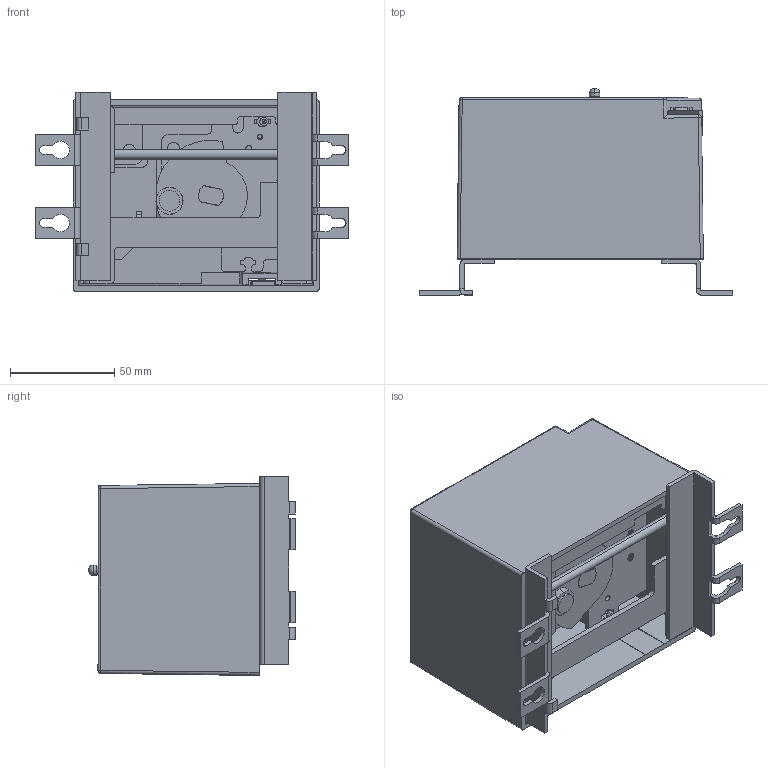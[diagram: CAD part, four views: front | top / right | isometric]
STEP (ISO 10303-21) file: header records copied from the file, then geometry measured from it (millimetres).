
FILE_DESCRIPTION (( 'STEP AP203' ), '1' );
FILE_NAME ('LCD2-250-TGM3（3E）电操外形.STEP', '2026-06-12T00:37:45', ( 'Windows 用户' ), ( 'Microsoft' ), 'SwSTEP 2.0', 'SolidWorks 2022', '' );
FILE_SCHEMA (( 'CONFIG_CONTROL_DESIGN' ));
Length unit declared in the file: millimetre
Products named in the file (20): NSX-250軞儂殤懈笢遴231216; CD2-100芵隴誘欶; CD2-100芧謫幗粣; 迕諶偌聽; CD2-100芧謫幗謫; 萇紱傷赽; CD2-100褲极; LCD2-250-TGM3（3E）脚架; CD2-250 萇紱俋倛; CD2-100笢盓殤; 峚雄賑璃1; NS軞殤嶺沭; NS-250芧謫4瘍懈笢遴231216; 忒紱忒梟; CD2-100賑輸絳弇粣; CD2-100軞粣杶; LCD2-250-TGM3（3E）电操外形; 萇紱TGM1N-250ZPT; CD2-100軞粣; NS-250前支持件居中款231216
Assembly tree (19 placements, depth 3):
  LCD2-250-TGM3（3E）电操外形
    CD2-250 萇紱俋倛
      CD2-100賑輸絳弇粣
      NS-250芧謫4瘍懈笢遴231216
      CD2-100芧謫幗謫
      CD2-100芧謫幗粣
      CD2-100笢盓殤
      NSX-250軞儂殤懈笢遴231216
      CD2-100軞粣
      CD2-100軞粣杶
      CD2-100褲极
      CD2-100芵隴誘欶
      NS-250前支持件居中款231216
      NS軞殤嶺沭
      迕諶偌聽
    LCD2-250-TGM3（3E）脚架
    萇紱TGM1N-250ZPT
      忒紱忒梟
      峚雄賑璃1
      萇紱傷赽
Bounding box: 150.3 x 98.92 x 95.43 mm (x, y, z)
Volume: 194111.8 mm3; surface area: 169415.6 mm2
Topology: 20 solids, 20 shells, 2089 faces, 5886 edges, 3899 vertices
Faces by surface type: plane 1303, cylinder 397, bspline 346, torus 27, cone 14, sphere 2
Entity records: 99048 total; most frequent: CARTESIAN_POINT 45848, ORIENTED_EDGE 11766, DIRECTION 8693, EDGE_CURVE 5883, VECTOR 3899, LINE 3899, VERTEX_POINT 3897, AXIS2_PLACEMENT_3D 2397
